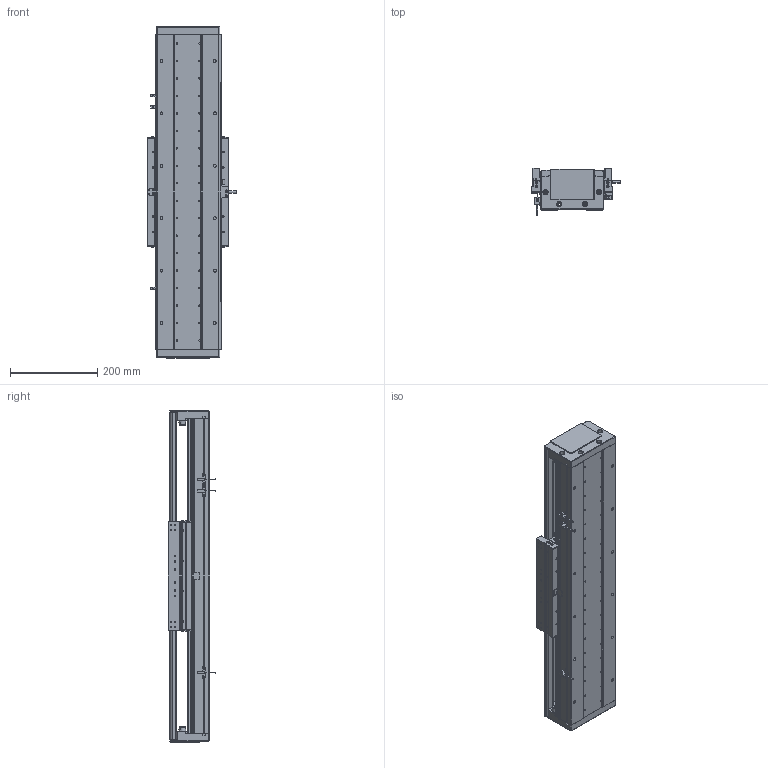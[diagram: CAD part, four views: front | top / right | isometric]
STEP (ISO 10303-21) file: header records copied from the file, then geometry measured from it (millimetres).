
FILE_DESCRIPTION (( 'STEP AP203' ), '1' );
FILE_NAME ('DA-C145-C3-T420-C010-0.2 眻盄萇儂.STEP', '2025-08-14T01:15:55', ( '' ), ( '' ), 'SwSTEP 2.0', 'SolidWorks 2019', '' );
FILE_SCHEMA (( 'CONFIG_CONTROL_DESIGN' ));
Length unit declared in the file: millimetre
Products named in the file (29): 葩璃 DMA-010-0.2 黍杅芛^DA-C145-C3-T-C010-0.2; 复件 DA145-C3-DK-00 挡块^CU145-W 滚珠滑台; TAY01-M8; 葩璃 CKMA01-W060-TRL^DA-C145-C3-T-C010-0.2; 葩璃 DA145-C3-DP-A-00 菜えA^CU145-W 幗紩賑怢; IU-CU145-L-00 菁釱(L720); 葩璃 DA145-T-003-00 裔啣^DA-C145-C3-T-C010-0.2; 葩璃 PM-T45^DA-C145-C3-T-C010-0.2; 葩璃 CKM03-W060-C1C2-TP-0.2^DA-C145-C3-T-C010-0.2; CU145-W-00 珨极趙賑雄怢啣; 复件 DA145-C3-YB-A-00 压板A^CU145-W 滚珠滑台; 葩璃 DA145-DG-H-N-00 傷裔^DA-C145-C3-T-C010-0.2; 复件 DA95-HK-GT-00 滑块钢轨^CU145-W-00 一体化滑动台板; 葩璃 XD-U-02L 棠掑喜^DA-C145-C3-T-C010-0.2; 复件 纯铜油杯 6x6mm^CU145-W 滚珠滑台; 葩璃 DA95-HXJ-00 遣喳砎蝶^DA-C145-C3-T-C010-0.2; 复件 DA95-MFP-01 密封片^CU145-W 滚珠滑台; 葩璃 鞠褒情蹟譫 M3^DA-C145-C3-T-C010-0.2; IU-CU145-L 菁釱絳寢; CU145-W 幗紩賑怢; 葩璃 DA145-C3-DP-B-00 菜えB^CU145-W 幗紩賑怢; 复件 内六角平端紧定螺钉 GB.T77-2000 M5×10^CU145-W 滚珠滑台; 66245-CU145-HT-W-00 賑雄怢啣(3D芞祧)(00); 复件 DA95-DB-00  挡板^CU145-W 滚珠滑台; 复件 半圆头内六角螺钉 M3×6^CU145-W 滚珠滑台; DA-C145-C3-T420-C010-0.2 眻盄萇儂; 复件 DA145-C3-YB-B-00 压板B^CU145-W 滚珠滑台; 葩璃 DA95-GT-T-00^IU-CU145-L 菁釱絳寢; 复件 DA145-GYP-00 光电感应片^DA-C145-C3-T-C010-0.2
Assembly tree (98 placements, depth 4):
  DA-C145-C3-T420-C010-0.2 眻盄萇儂
    IU-CU145-L 菁釱絳寢
      IU-CU145-L-00 菁釱(L720)
      葩璃 DA95-GT-T-00^IU-CU145-L 菁釱絳寢  x4
    CU145-W 幗紩賑怢
      CU145-W-00 珨极趙賑雄怢啣
        66245-CU145-HT-W-00 賑雄怢啣(3D芞祧)(00)
        复件 DA95-HK-GT-00 滑块钢轨^CU145-W-00 一体化滑动台板  x8
      复件 DA95-MFP-01 密封片^CU145-W 滚珠滑台  x8
      复件 DA95-DB-00  挡板^CU145-W 滚珠滑台  x8
      复件 内六角平端紧定螺钉 GB.T77-2000 M5×10^CU145-W 滚珠滑台  x4
      复件 纯铜油杯 6x6mm^CU145-W 滚珠滑台  x4
      复件 半圆头内六角螺钉 M3×6^CU145-W 滚珠滑台  x16
      复件 DA145-C3-DK-00 挡块^CU145-W 滚珠滑台  x4
      葩璃 DA145-C3-DP-B-00 菜えB^CU145-W 幗紩賑怢  x2
      复件 DA145-C3-YB-B-00 压板B^CU145-W 滚珠滑台  x2
      葩璃 DA145-C3-DP-A-00 菜えA^CU145-W 幗紩賑怢  x3
      复件 DA145-C3-YB-A-00 压板A^CU145-W 滚珠滑台  x3
      TAY01-M8  x4
    葩璃 CKMA01-W060-TRL^DA-C145-C3-T-C010-0.2
    葩璃 PM-T45^DA-C145-C3-T-C010-0.2  x3
    葩璃 XD-U-02L 棠掑喜^DA-C145-C3-T-C010-0.2
    葩璃 DA145-DG-H-N-00 傷裔^DA-C145-C3-T-C010-0.2  x2
    葩璃 DA145-T-003-00 裔啣^DA-C145-C3-T-C010-0.2
    葩璃 DA95-HXJ-00 遣喳砎蝶^DA-C145-C3-T-C010-0.2  x4
    复件 DA145-GYP-00 光电感应片^DA-C145-C3-T-C010-0.2
    葩璃 DMA-010-0.2 黍杅芛^DA-C145-C3-T-C010-0.2
    葩璃 CKM03-W060-C1C2-TP-0.2^DA-C145-C3-T-C010-0.2
    葩璃 鞠褒情蹟譫 M3^DA-C145-C3-T-C010-0.2  x8
Bounding box: 203.5 x 108.45 x 760 mm (x, y, z)
Volume: 5656576.3 mm3; surface area: 1582571.9 mm2
Topology: 95 solids, 127 shells, 3832 faces, 10005 edges, 6148 vertices
Faces by surface type: plane 1569, cylinder 1547, cone 626, torus 86, sphere 4
Entity records: 83359 total; most frequent: CARTESIAN_POINT 19608, DIRECTION 12531, ORIENTED_EDGE 12008, EDGE_CURVE 6004, AXIS2_PLACEMENT_3D 4652, VERTEX_POINT 3837, VECTOR 3227, LINE 3227
